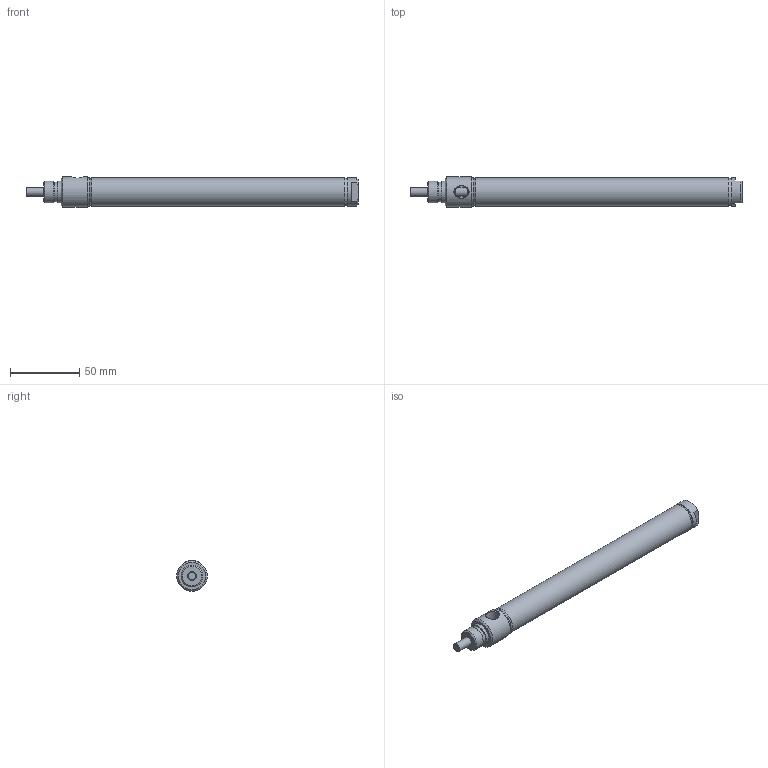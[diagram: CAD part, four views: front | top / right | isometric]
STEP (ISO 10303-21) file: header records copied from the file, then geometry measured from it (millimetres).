
FILE_DESCRIPTION( ( 'STEP AP214' ), '1' );
FILE_NAME( 'p:/temp/worker_411/temp/exporttempdir_1152_62_QvTOF/format_0/0750D01-06A-03.stp', '2020-05-07T14:32:34', ( 'License CC BY-ND 4.0' ), ( 'CADENAS' ), ' ', 'PARTsolutions', ' ' );
FILE_SCHEMA( ( 'AUTOMOTIVE_DESIGN { 1 0 10303 214 1 1 1 1 }' ) );
Length unit declared in the file: inch
Products named in the file (3): 0750D01-06A-03; _0750D01-06A-030b; _0750D01-06A-030r
Assembly tree (2 placements, depth 2):
  0750D01-06A-03
    _0750D01-06A-030b
    _0750D01-06A-030r
Bounding box: 240.51 x 22.23 x 22.23 mm (x, y, z)
Volume: 34331.4 mm3; surface area: 33893.8 mm2
Topology: 2 solids, 2 shells, 44 faces, 85 edges, 54 vertices
Faces by surface type: plane 19, cone 13, cylinder 12
Full cylindrical faces by diameter (mm): 6.35 x3, 14.196 x1, 15.85 x1, 15.875 x1, 19.05 x2, 20.472 x1, 20.65 x2, 22.225 x1
Entity records: 1546 total; most frequent: CARTESIAN_POINT 317, DIRECTION 186, ORIENTED_EDGE 122, AXIS2_PLACEMENT_3D 88, EDGE_LOOP 78, EDGE_CURVE 61, FACE_OUTER_BOUND 56, VERTEX_POINT 51
